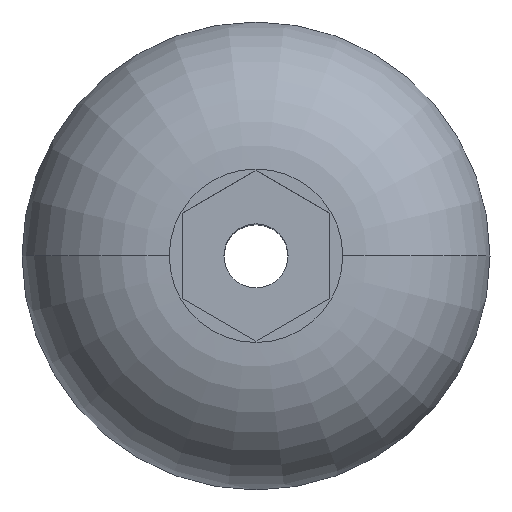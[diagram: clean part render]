
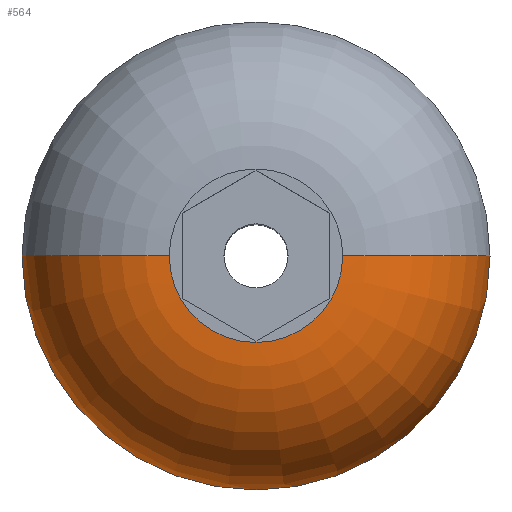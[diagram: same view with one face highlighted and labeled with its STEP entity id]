
A CAD part, top view. The second image highlights one B-rep face of the part: STEP entity #564.
In plain terms, the highlighted toroidal (fillet/blend) face has major radius 1.76 mm and minor radius 3 mm.
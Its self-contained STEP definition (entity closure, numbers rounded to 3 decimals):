
#54 = EDGE_LOOP ( 'NONE', ( #508, #1559, #1534, #1172 ) ) ;
#158 = CARTESIAN_POINT ( 'NONE',  ( 1.76, 0., 2.75 ) ) ;
#239 = VERTEX_POINT ( 'NONE', #158 ) ;
#289 = CARTESIAN_POINT ( 'NONE',  ( -4.75, 0., 0. ) ) ;
#331 = DIRECTION ( 'NONE',  ( 0., -1., 0. ) ) ;
#336 = DIRECTION ( 'NONE',  ( 0., 0., 1. ) ) ;
#415 = AXIS2_PLACEMENT_3D ( 'NONE', #466, #336, #873 ) ;
#425 = DIRECTION ( 'NONE',  ( 0., 0., 1. ) ) ;
#459 = FACE_OUTER_BOUND ( 'NONE', #54, .T. ) ;
#465 = EDGE_CURVE ( 'NONE', #875, #239, #714, .T. ) ;
#466 = CARTESIAN_POINT ( 'NONE',  ( 0., 0., 0. ) ) ;
#482 = CARTESIAN_POINT ( 'NONE',  ( 1.76, 0., -0.25 ) ) ;
#491 = AXIS2_PLACEMENT_3D ( 'NONE', #1425, #765, #1588 ) ;
#508 = ORIENTED_EDGE ( 'NONE', *, *, #1641, .F. ) ;
#546 = TOROIDAL_SURFACE ( 'NONE', #491, 1.76, 3. ) ;
#556 = DIRECTION ( 'NONE',  ( 1., 0., 0. ) ) ;
#564 = ADVANCED_FACE ( 'NONE', ( #459 ), #546, .T. ) ;
#607 = AXIS2_PLACEMENT_3D ( 'NONE', #1493, #425, #556 ) ;
#621 = CIRCLE ( 'NONE', #415, 4.75 ) ;
#714 = CIRCLE ( 'NONE', #1081, 3. ) ;
#765 = DIRECTION ( 'NONE',  ( 0., 0., 1. ) ) ;
#866 = CIRCLE ( 'NONE', #1687, 3. ) ;
#873 = DIRECTION ( 'NONE',  ( 1., 0., 0. ) ) ;
#875 = VERTEX_POINT ( 'NONE', #1109 ) ;
#894 = VERTEX_POINT ( 'NONE', #289 ) ;
#896 = VERTEX_POINT ( 'NONE', #1240 ) ;
#1007 = DIRECTION ( 'NONE',  ( -1., 0., 0. ) ) ;
#1081 = AXIS2_PLACEMENT_3D ( 'NONE', #482, #331, #1696 ) ;
#1109 = CARTESIAN_POINT ( 'NONE',  ( 4.75, 0., 0. ) ) ;
#1172 = ORIENTED_EDGE ( 'NONE', *, *, #1336, .F. ) ;
#1240 = CARTESIAN_POINT ( 'NONE',  ( -1.76, 0., 2.75 ) ) ;
#1282 = DIRECTION ( 'NONE',  ( 0., 1., 0. ) ) ;
#1336 = EDGE_CURVE ( 'NONE', #896, #239, #1563, .T. ) ;
#1425 = CARTESIAN_POINT ( 'NONE',  ( 0., 0., -0.25 ) ) ;
#1493 = CARTESIAN_POINT ( 'NONE',  ( 0., 0., 2.75 ) ) ;
#1534 = ORIENTED_EDGE ( 'NONE', *, *, #465, .T. ) ;
#1559 = ORIENTED_EDGE ( 'NONE', *, *, #1732, .T. ) ;
#1563 = CIRCLE ( 'NONE', #607, 1.76 ) ;
#1588 = DIRECTION ( 'NONE',  ( 1., 0., 0. ) ) ;
#1641 = EDGE_CURVE ( 'NONE', #894, #896, #866, .T. ) ;
#1683 = CARTESIAN_POINT ( 'NONE',  ( -1.76, 0., -0.25 ) ) ;
#1687 = AXIS2_PLACEMENT_3D ( 'NONE', #1683, #1282, #1007 ) ;
#1696 = DIRECTION ( 'NONE',  ( 0., 0., -1. ) ) ;
#1732 = EDGE_CURVE ( 'NONE', #894, #875, #621, .T. ) ;
